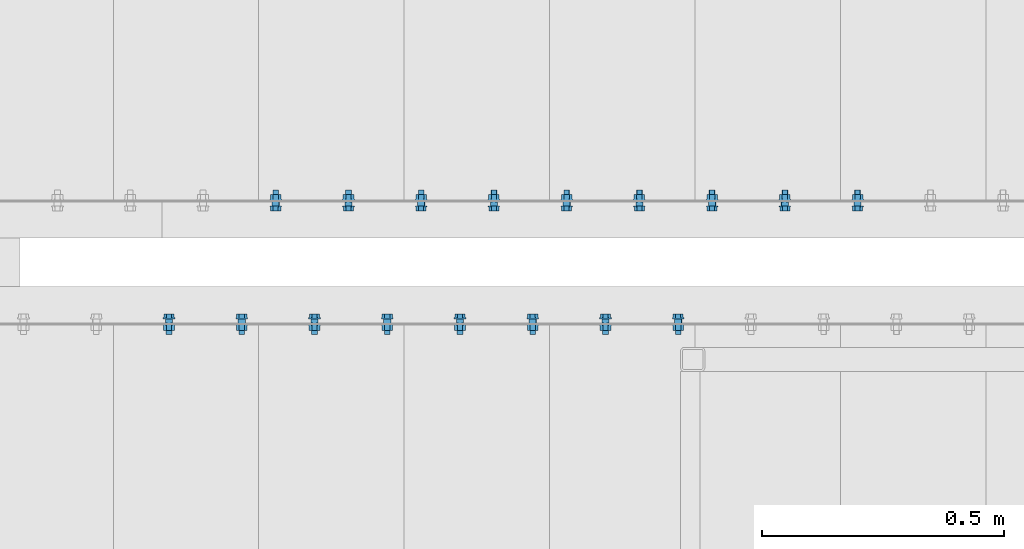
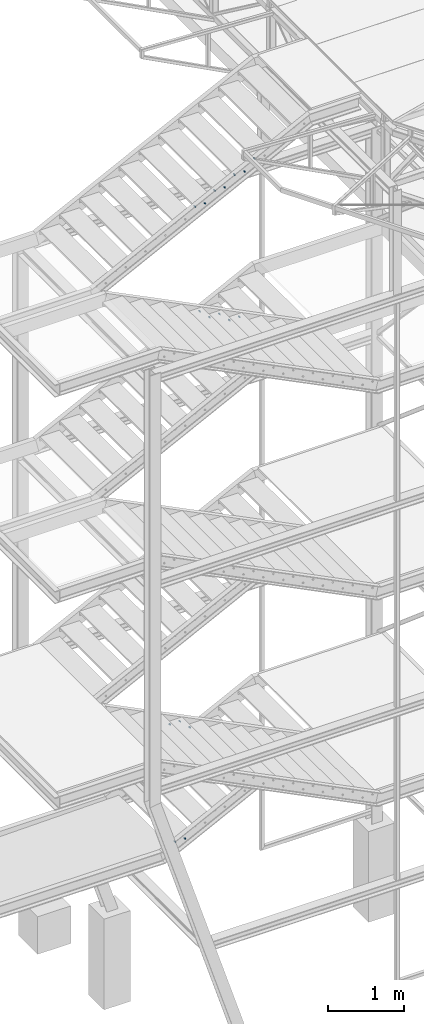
# One storey, part 104 of 132: 17 mechanical fasteners, 10 elements without a shape of their own.
"""IFC2X3 building model written with IfcOpenShell, lengths in millimetres."""

from ifc_helpers import new_model, si_unit, frame, frame_2d, origin_with_axes, origin_2d_with_axis, place, context, subcontext, project, spatial, polyline, circle_curve, parameter, trimmed, segment, composite_curve, circle, outline, extrude, source, transform, mapped, material, type_object, element, aggregate, save


model = new_model("IFC2X3")

# Units and contexts
model_context = context("Model", 3, precision=1e-05, world=origin_with_axes())
body_context = subcontext(model_context, "Body", "Model", "MODEL_VIEW")
ifc_project = project(units=[si_unit("LENGTHUNIT", "METRE", prefix="MILLI"), si_unit("AREAUNIT", "SQUARE_METRE"), si_unit("VOLUMEUNIT", "CUBIC_METRE"), si_unit("MASSUNIT", "GRAM", prefix="KILO"), si_unit("TIMEUNIT", "SECOND"), si_unit("PLANEANGLEUNIT", "RADIAN"), si_unit("SOLIDANGLEUNIT", "STERADIAN"), si_unit("THERMODYNAMICTEMPERATUREUNIT", "DEGREE_CELSIUS"), si_unit("LUMINOUSINTENSITYUNIT", "LUMEN")], contexts=[model_context])

# Site, building, storey
site_placement = place(None, origin_with_axes())
site = spatial("IfcSite", under=ifc_project, at=site_placement, Name="Budowa", CompositionType="ELEMENT")
building_placement = place(site_placement, origin_with_axes())
building = spatial("IfcBuilding", under=site, at=building_placement, Name="Undefined", CompositionType="ELEMENT")
storey_placement = place(building_placement, origin_with_axes())
storey = spatial("IfcBuildingStorey", under=building, at=storey_placement, Name="Undefined", CompositionType="ELEMENT", Elevation=0.0)

# Assembly, mechanical fastener
assembly_1_placement = place(storey_placement, origin_with_axes())
assembly_1 = element("IfcElementAssembly", 1, at=assembly_1_placement, inside=storey, Name="Steel Assembly", AssemblyPlace="NOTDEFINED", PredefinedType="RIGID_FRAME")
ifc_material = material(Name="Undefined")
discrete_accessory_type = type_object("IfcDiscreteAccessoryType", Name="Bolt assembly")
shared_shape_1 = source(origin_with_axes(), body_context, "Body", "SweptSolid", [
    extrude(circle(Radius=7.5, at=origin_2d_with_axis()), frame((0.0, -8.40000000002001, 0.0), z_axis=(0.0, 1.0, 0.0), x_axis=(1.0, 0.0, 0.0)), (0.0, 0.0, 1.0), 8.5),
    extrude(circle(Radius=7.5, at=origin_2d_with_axis()), frame((0.0, -0.1, 0.0), z_axis=(0.0, 1.0, 0.0), x_axis=(1.0, 0.0, 0.0)), (0.0, 0.0, 1.0), 3.1),
    extrude(outline(polyline([(10.39230484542, 0.0), (5.19615242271, 9.00000000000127), (-5.19615242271, 9.00000000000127), (-10.39230484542, 0.0), (-5.19615242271, -9.00000000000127), (5.19615242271, -9.00000000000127), (10.39230484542, 0.0)])), frame((0.0, -18.50000000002, 0.0), z_axis=(0.0, 1.0, 0.0), x_axis=(1.0, 0.0, 0.0)), (0.0, 0.0, 1.0), 7.5),
    extrude(circle(Radius=6.0, at=origin_2d_with_axis()), frame((0.0, -11.00000000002, 0.0), z_axis=(0.0, 1.0, 0.0), x_axis=(1.0, 0.0, 0.0)), (0.0, 0.0, 1.0), 35.0),
    extrude(circle(Radius=12.0, at=origin_2d_with_axis()), frame((0.0, -11.00000000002, 0.0), z_axis=(0.0, 1.0, 0.0), x_axis=(1.0, 0.0, 0.0)), (0.0, 0.0, 1.0), 2.5),
    extrude(circle(Radius=12.0, at=origin_2d_with_axis()), frame((0.0, 3.0, 0.0), z_axis=(0.0, 1.0, 0.0), x_axis=(1.0, 0.0, 0.0)), (0.0, 0.0, 1.0), 2.5),
    extrude(outline(polyline([(10.96965511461, 0.0), (5.484827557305, 9.50000000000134), (-5.484827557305, 9.50000000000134), (-10.96965511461, 0.0), (-5.484827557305, -9.50000000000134), (5.484827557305, -9.50000000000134), (10.96965511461, 0.0)])), frame((0.0, 5.5, 0.0), z_axis=(0.0, 1.0, 0.0), x_axis=(1.0, 0.0, 0.0)), (0.0, 0.0, 1.0), 10.0),
])
mechanical_fastener_1_placement = place(assembly_1_placement, frame((-1420.0000000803, 9525.0000000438, 13549.9999999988), z_axis=(0.0, 0.0, -1.0), x_axis=(-1.0, 0.0, 0.0)))
mechanical_fastener_1 = element("IfcMechanicalFastener", 2, at=mechanical_fastener_1_placement, type_object=discrete_accessory_type, material=ifc_material, Name="Bolt assembly", NominalDiameter=12.0, NominalLength=35.0, context=body_context, shape_type="MappedRepresentation", body=[
    mapped(shared_shape_1, transform((265.0, 0.0, 25.0))),
])
aggregate(assembly_1, [mechanical_fastener_1])

assembly_2_placement = place(storey_placement, origin_with_axes())
assembly_2 = element("IfcElementAssembly", 3, at=assembly_2_placement, inside=storey, Name="Steel Assembly", AssemblyPlace="NOTDEFINED", PredefinedType="RIGID_FRAME")
mechanical_fastener_2_placement = place(assembly_2_placement, frame((-1720.00000008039, 9525.0000000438, 13399.9999999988), z_axis=(0.0, 0.0, -1.0), x_axis=(-1.0, 0.0, 0.0)))
mechanical_fastener_2 = element("IfcMechanicalFastener", 4, at=mechanical_fastener_2_placement, type_object=discrete_accessory_type, material=ifc_material, Name="Bolt assembly", NominalDiameter=12.0, NominalLength=35.0, context=body_context, shape_type="MappedRepresentation", body=[
    mapped(shared_shape_1, transform((265.0, 0.0, 25.0))),
])

assembly_3_placement = place(storey_placement, origin_with_axes())
assembly_3 = element("IfcElementAssembly", 5, at=assembly_3_placement, inside=storey, Name="Steel Assembly", AssemblyPlace="NOTDEFINED", PredefinedType="RIGID_FRAME")
mechanical_fastener_3_placement = place(assembly_3_placement, frame((-2020.00000008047, 9525.0000000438, 13249.9999999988), z_axis=(0.0, 0.0, -1.0), x_axis=(-1.0, 0.0, 0.0)))
mechanical_fastener_3 = element("IfcMechanicalFastener", 6, at=mechanical_fastener_3_placement, type_object=discrete_accessory_type, material=ifc_material, Name="Bolt assembly", NominalDiameter=12.0, NominalLength=35.0, context=body_context, shape_type="MappedRepresentation", body=[
    mapped(shared_shape_1, transform((265.0, 0.0, 25.0))),
])

assembly_4_placement = place(storey_placement, origin_with_axes())
assembly_4 = element("IfcElementAssembly", 7, at=assembly_4_placement, inside=storey, Name="Steel Assembly", AssemblyPlace="NOTDEFINED", PredefinedType="RIGID_FRAME")
mechanical_fastener_4_placement = place(assembly_4_placement, frame((-2320.00000008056, 9525.0000000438, 13099.9999999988), z_axis=(0.0, 0.0, -1.0), x_axis=(-1.0, 0.0, 0.0)))
mechanical_fastener_4 = element("IfcMechanicalFastener", 8, at=mechanical_fastener_4_placement, type_object=discrete_accessory_type, material=ifc_material, Name="Bolt assembly", NominalDiameter=12.0, NominalLength=35.0, context=body_context, shape_type="MappedRepresentation", body=[
    mapped(shared_shape_1, transform((265.0, 0.0, 25.0))),
])

assembly_5_placement = place(storey_placement, origin_with_axes())
assembly_5 = element("IfcElementAssembly", 9, at=assembly_5_placement, inside=storey, Name="Steel Assembly", AssemblyPlace="NOTDEFINED", PredefinedType="RIGID_FRAME")
mechanical_fastener_5_placement = place(assembly_5_placement, frame((-2920.00000007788, 9275.00000004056, 11600.0000000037), z_axis=(0.0, 0.0, -1.0), x_axis=(1.0, 0.0, 0.0)))
mechanical_fastener_5 = element("IfcMechanicalFastener", 10, at=mechanical_fastener_5_placement, type_object=discrete_accessory_type, material=ifc_material, Name="Bolt assembly", NominalDiameter=12.0, NominalLength=35.0, context=body_context, shape_type="MappedRepresentation", body=[
    mapped(shared_shape_1, transform((265.0, 0.0, 25.0))),
])
aggregate(assembly_5, [mechanical_fastener_5])

assembly_6_placement = place(storey_placement, origin_with_axes())
assembly_6 = element("IfcElementAssembly", 11, at=assembly_6_placement, inside=storey, Name="Steel Assembly", AssemblyPlace="NOTDEFINED", PredefinedType="RIGID_FRAME")
mechanical_fastener_6_placement = place(assembly_6_placement, frame((-2620.00000007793, 9275.00000004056, 11450.0000000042), z_axis=(0.0, 0.0, -1.0), x_axis=(1.0, 0.0, 0.0)))
mechanical_fastener_6 = element("IfcMechanicalFastener", 12, at=mechanical_fastener_6_placement, type_object=discrete_accessory_type, material=ifc_material, Name="Bolt assembly", NominalDiameter=12.0, NominalLength=35.0, context=body_context, shape_type="MappedRepresentation", body=[
    mapped(shared_shape_1, transform((265.0, 0.0, 25.0))),
])

assembly_7_placement = place(storey_placement, origin_with_axes())
assembly_7 = element("IfcElementAssembly", 13, at=assembly_7_placement, inside=storey, Name="Steel Assembly", AssemblyPlace="NOTDEFINED", PredefinedType="RIGID_FRAME")
mechanical_fastener_7_placement = place(assembly_7_placement, frame((-2320.00000007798, 9275.00000004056, 11300.000000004), z_axis=(0.0, 0.0, -1.0), x_axis=(1.0, 0.0, 0.0)))
mechanical_fastener_7 = element("IfcMechanicalFastener", 14, at=mechanical_fastener_7_placement, type_object=discrete_accessory_type, material=ifc_material, Name="Bolt assembly", NominalDiameter=12.0, NominalLength=35.0, context=body_context, shape_type="MappedRepresentation", body=[
    mapped(shared_shape_1, transform((265.0, 0.0, 25.0))),
])

assembly_8_placement = place(storey_placement, origin_with_axes())
assembly_8 = element("IfcElementAssembly", 15, at=assembly_8_placement, inside=storey, Name="Steel Assembly", AssemblyPlace="NOTDEFINED", PredefinedType="RIGID_FRAME")
mechanical_fastener_8_placement = place(assembly_8_placement, frame((-3220.00000007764, 9275.00000004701, 5149.99999999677), z_axis=(0.0, 0.0, -1.0), x_axis=(1.0, 0.0, 0.0)))
mechanical_fastener_8 = element("IfcMechanicalFastener", 16, at=mechanical_fastener_8_placement, type_object=discrete_accessory_type, material=ifc_material, Name="Bolt assembly", NominalDiameter=12.0, NominalLength=35.0, context=body_context, shape_type="MappedRepresentation", body=[
    mapped(shared_shape_1, transform((265.0, 0.0, 25.0))),
])

assembly_9_placement = place(storey_placement, origin_with_axes())
assembly_9 = element("IfcElementAssembly", 17, at=assembly_9_placement, inside=storey, Name="Steel Assembly", AssemblyPlace="NOTDEFINED", PredefinedType="RIGID_FRAME")
mechanical_fastener_9_placement = place(assembly_9_placement, frame((-2620.00000008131, 9525.00000004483, 3049.99999999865), z_axis=(0.0, 0.0, -1.0), x_axis=(-1.0, 0.0, 0.0)))
mechanical_fastener_9 = element("IfcMechanicalFastener", 18, at=mechanical_fastener_9_placement, type_object=discrete_accessory_type, material=ifc_material, Name="Bolt assembly", NominalDiameter=12.0, NominalLength=35.0, context=body_context, shape_type="MappedRepresentation", body=[
    mapped(shared_shape_1, transform((265.0, 0.0, 25.0))),
])

# Mechanical fastener
shared_shape_2 = source(origin_with_axes(), body_context, "Body", "SweptSolid", [
    extrude(circle(Radius=7.5, at=origin_2d_with_axis()), frame((0.0, -8.40000000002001, 0.0), z_axis=(0.0, 1.0, 0.0), x_axis=(1.0, 0.0, 0.0)), (0.0, 0.0, 1.0), 8.5),
    extrude(outline(composite_curve([segment(polyline([(-10.0, 7.5), (10.0, 7.5)]), True, "CONTINUOUS"), segment(trimmed(circle_curve(frame_2d((10.0, 0.0), x_axis=(0.0, 1.0)), 7.5), [parameter(0.0)], [parameter(3.14159265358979)], False, "PARAMETER"), True, "CONTINUOUS"), segment(polyline([(10.0, -7.5), (-10.0, -7.5)]), True, "CONTINUOUS"), segment(trimmed(circle_curve(frame_2d((-10.0, 0.0), x_axis=(0.0, -1.0)), 7.5), [parameter(0.0)], [parameter(3.14159265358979)], False, "PARAMETER"), True, "DISCONTINUOUS")], self_intersect=False)), frame((0.0, -0.1, 0.0), z_axis=(0.0, 1.0, 0.0), x_axis=(1.0, 0.0, 0.0)), (0.0, 0.0, 1.0), 3.1),
    extrude(outline(polyline([(10.39230484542, 0.0), (5.19615242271, 9.00000000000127), (-5.19615242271, 9.00000000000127), (-10.39230484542, 0.0), (-5.19615242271, -9.00000000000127), (5.19615242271, -9.00000000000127), (10.39230484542, 0.0)])), frame((0.0, -18.50000000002, 0.0), z_axis=(0.0, 1.0, 0.0), x_axis=(1.0, 0.0, 0.0)), (0.0, 0.0, 1.0), 7.5),
    extrude(circle(Radius=6.0, at=origin_2d_with_axis()), frame((0.0, -11.00000000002, 0.0), z_axis=(0.0, 1.0, 0.0), x_axis=(1.0, 0.0, 0.0)), (0.0, 0.0, 1.0), 35.0),
    extrude(circle(Radius=12.0, at=origin_2d_with_axis()), frame((0.0, -11.00000000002, 0.0), z_axis=(0.0, 1.0, 0.0), x_axis=(1.0, 0.0, 0.0)), (0.0, 0.0, 1.0), 2.5),
    extrude(circle(Radius=12.0, at=origin_2d_with_axis()), frame((0.0, 3.0, 0.0), z_axis=(0.0, 1.0, 0.0), x_axis=(1.0, 0.0, 0.0)), (0.0, 0.0, 1.0), 2.5),
    extrude(outline(polyline([(10.96965511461, 0.0), (5.484827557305, 9.50000000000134), (-5.484827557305, 9.50000000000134), (-10.96965511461, 0.0), (-5.484827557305, -9.50000000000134), (5.484827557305, -9.50000000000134), (10.96965511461, 0.0)])), frame((0.0, 5.5, 0.0), z_axis=(0.0, 1.0, 0.0), x_axis=(1.0, 0.0, 0.0)), (0.0, 0.0, 1.0), 10.0),
])
mechanical_fastener_10_placement = place(assembly_2_placement, frame((-1720.00000008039, 9525.0000000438, 13399.9999999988), z_axis=(0.0, 0.0, -1.0), x_axis=(-1.0, 0.0, 0.0)))
mechanical_fastener_10 = element("IfcMechanicalFastener", 19, at=mechanical_fastener_10_placement, type_object=discrete_accessory_type, material=ifc_material, Name="Bolt assembly", NominalDiameter=12.0, NominalLength=35.0, context=body_context, shape_type="MappedRepresentation", body=[
    mapped(shared_shape_2, transform((115.0, 0.0, 25.0))),
])

aggregate(assembly_2, [mechanical_fastener_10, mechanical_fastener_2])

shared_shape_3 = source(origin_with_axes(), body_context, "Body", "SweptSolid", [
    extrude(circle(Radius=7.5, at=origin_2d_with_axis()), frame((0.0, -8.40000000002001, 0.0), z_axis=(0.0, 1.0, 0.0), x_axis=(1.0, 0.0, 0.0)), (0.0, 0.0, 1.0), 8.5),
    extrude(outline(composite_curve([segment(polyline([(-10.0, 7.5), (10.0, 7.5)]), True, "CONTINUOUS"), segment(trimmed(circle_curve(frame_2d((10.0, 0.0), x_axis=(0.0, 1.0)), 7.5), [parameter(0.0)], [parameter(3.14159265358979)], False, "PARAMETER"), True, "CONTINUOUS"), segment(polyline([(10.0, -7.5), (-10.0, -7.5)]), True, "CONTINUOUS"), segment(trimmed(circle_curve(frame_2d((-10.0, 0.0), x_axis=(0.0, -1.0)), 7.5), [parameter(0.0)], [parameter(3.14159265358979)], False, "PARAMETER"), True, "DISCONTINUOUS")], self_intersect=False)), frame((0.0, -0.1, 0.0), z_axis=(0.0, 1.0, 0.0), x_axis=(1.0, 0.0, 0.0)), (0.0, 0.0, 1.0), 3.1),
    extrude(outline(polyline([(10.39230484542, 0.0), (5.19615242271, 9.00000000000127), (-5.19615242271, 9.00000000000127), (-10.39230484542, 0.0), (-5.19615242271, -9.00000000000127), (5.19615242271, -9.00000000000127), (10.39230484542, 0.0)])), frame((0.0, -18.50000000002, 0.0), z_axis=(0.0, 1.0, 0.0), x_axis=(1.0, 0.0, 0.0)), (0.0, 0.0, 1.0), 7.5),
    extrude(circle(Radius=6.0, at=origin_2d_with_axis()), frame((0.0, -11.00000000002, 0.0), z_axis=(0.0, 1.0, 0.0), x_axis=(1.0, 0.0, 0.0)), (0.0, 0.0, 1.0), 35.0),
    extrude(circle(Radius=12.0, at=origin_2d_with_axis()), frame((0.0, -11.00000000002, 0.0), z_axis=(0.0, 1.0, 0.0), x_axis=(1.0, 0.0, 0.0)), (0.0, 0.0, 1.0), 2.5),
    extrude(circle(Radius=12.0, at=origin_2d_with_axis()), frame((0.0, 3.0, 0.0), z_axis=(0.0, 1.0, 0.0), x_axis=(1.0, 0.0, 0.0)), (0.0, 0.0, 1.0), 2.5),
    extrude(outline(polyline([(10.96965511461, 0.0), (5.484827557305, 9.50000000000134), (-5.484827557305, 9.50000000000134), (-10.96965511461, 0.0), (-5.484827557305, -9.50000000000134), (5.484827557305, -9.50000000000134), (10.96965511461, 0.0)])), frame((0.0, 5.5, 0.0), z_axis=(0.0, 1.0, 0.0), x_axis=(1.0, 0.0, 0.0)), (0.0, 0.0, 1.0), 10.0),
])
mechanical_fastener_11_placement = place(assembly_3_placement, frame((-2020.00000008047, 9525.0000000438, 13249.9999999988), z_axis=(0.0, 0.0, -1.0), x_axis=(-1.0, 0.0, 0.0)))
mechanical_fastener_11 = element("IfcMechanicalFastener", 20, at=mechanical_fastener_11_placement, type_object=discrete_accessory_type, material=ifc_material, Name="Bolt assembly", NominalDiameter=12.0, NominalLength=35.0, context=body_context, shape_type="MappedRepresentation", body=[
    mapped(shared_shape_3, transform((115.0, 0.0, 25.0))),
])

aggregate(assembly_3, [mechanical_fastener_11, mechanical_fastener_3])

shared_shape_4 = source(origin_with_axes(), body_context, "Body", "SweptSolid", [
    extrude(circle(Radius=7.5, at=origin_2d_with_axis()), frame((0.0, -8.40000000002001, 0.0), z_axis=(0.0, 1.0, 0.0), x_axis=(1.0, 0.0, 0.0)), (0.0, 0.0, 1.0), 8.5),
    extrude(outline(composite_curve([segment(polyline([(-10.0, 7.5), (10.0, 7.5)]), True, "CONTINUOUS"), segment(trimmed(circle_curve(frame_2d((10.0, 0.0), x_axis=(0.0, 1.0)), 7.5), [parameter(0.0)], [parameter(3.14159265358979)], False, "PARAMETER"), True, "CONTINUOUS"), segment(polyline([(10.0, -7.5), (-10.0, -7.5)]), True, "CONTINUOUS"), segment(trimmed(circle_curve(frame_2d((-10.0, 0.0), x_axis=(0.0, -1.0)), 7.5), [parameter(0.0)], [parameter(3.14159265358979)], False, "PARAMETER"), True, "DISCONTINUOUS")], self_intersect=False)), frame((0.0, -0.1, 0.0), z_axis=(0.0, 1.0, 0.0), x_axis=(1.0, 0.0, 0.0)), (0.0, 0.0, 1.0), 3.1),
    extrude(outline(polyline([(10.39230484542, 0.0), (5.19615242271, 9.00000000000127), (-5.19615242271, 9.00000000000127), (-10.39230484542, 0.0), (-5.19615242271, -9.00000000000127), (5.19615242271, -9.00000000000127), (10.39230484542, 0.0)])), frame((0.0, -18.50000000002, 0.0), z_axis=(0.0, 1.0, 0.0), x_axis=(1.0, 0.0, 0.0)), (0.0, 0.0, 1.0), 7.5),
    extrude(circle(Radius=6.0, at=origin_2d_with_axis()), frame((0.0, -11.00000000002, 0.0), z_axis=(0.0, 1.0, 0.0), x_axis=(1.0, 0.0, 0.0)), (0.0, 0.0, 1.0), 35.0),
    extrude(circle(Radius=12.0, at=origin_2d_with_axis()), frame((0.0, -11.00000000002, 0.0), z_axis=(0.0, 1.0, 0.0), x_axis=(1.0, 0.0, 0.0)), (0.0, 0.0, 1.0), 2.5),
    extrude(circle(Radius=12.0, at=origin_2d_with_axis()), frame((0.0, 3.0, 0.0), z_axis=(0.0, 1.0, 0.0), x_axis=(1.0, 0.0, 0.0)), (0.0, 0.0, 1.0), 2.5),
    extrude(outline(polyline([(10.96965511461, 0.0), (5.484827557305, 9.50000000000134), (-5.484827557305, 9.50000000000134), (-10.96965511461, 0.0), (-5.484827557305, -9.50000000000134), (5.484827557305, -9.50000000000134), (10.96965511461, 0.0)])), frame((0.0, 5.5, 0.0), z_axis=(0.0, 1.0, 0.0), x_axis=(1.0, 0.0, 0.0)), (0.0, 0.0, 1.0), 10.0),
])
mechanical_fastener_12_placement = place(assembly_4_placement, frame((-2320.00000008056, 9525.0000000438, 13099.9999999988), z_axis=(0.0, 0.0, -1.0), x_axis=(-1.0, 0.0, 0.0)))
mechanical_fastener_12 = element("IfcMechanicalFastener", 21, at=mechanical_fastener_12_placement, type_object=discrete_accessory_type, material=ifc_material, Name="Bolt assembly", NominalDiameter=12.0, NominalLength=35.0, context=body_context, shape_type="MappedRepresentation", body=[
    mapped(shared_shape_4, transform((115.0, 0.0, 25.0))),
])

aggregate(assembly_4, [mechanical_fastener_12, mechanical_fastener_4])

shared_shape_5 = source(origin_with_axes(), body_context, "Body", "SweptSolid", [
    extrude(circle(Radius=7.5, at=origin_2d_with_axis()), frame((0.0, -8.40000000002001, 0.0), z_axis=(0.0, 1.0, 0.0), x_axis=(1.0, 0.0, 0.0)), (0.0, 0.0, 1.0), 8.5),
    extrude(outline(composite_curve([segment(polyline([(-10.0, 7.5), (10.0, 7.5)]), True, "CONTINUOUS"), segment(trimmed(circle_curve(frame_2d((10.0, 0.0), x_axis=(0.0, 1.0)), 7.5), [parameter(0.0)], [parameter(3.14159265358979)], False, "PARAMETER"), True, "CONTINUOUS"), segment(polyline([(10.0, -7.5), (-10.0, -7.5)]), True, "CONTINUOUS"), segment(trimmed(circle_curve(frame_2d((-10.0, 0.0), x_axis=(0.0, -1.0)), 7.5), [parameter(0.0)], [parameter(3.14159265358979)], False, "PARAMETER"), True, "DISCONTINUOUS")], self_intersect=False)), frame((0.0, -0.1, 0.0), z_axis=(0.0, 1.0, 0.0), x_axis=(1.0, 0.0, 0.0)), (0.0, 0.0, 1.0), 3.1),
    extrude(outline(polyline([(10.39230484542, 0.0), (5.19615242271, 9.00000000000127), (-5.19615242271, 9.00000000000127), (-10.39230484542, 0.0), (-5.19615242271, -9.00000000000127), (5.19615242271, -9.00000000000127), (10.39230484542, 0.0)])), frame((0.0, -18.50000000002, 0.0), z_axis=(0.0, 1.0, 0.0), x_axis=(1.0, 0.0, 0.0)), (0.0, 0.0, 1.0), 7.5),
    extrude(circle(Radius=6.0, at=origin_2d_with_axis()), frame((0.0, -11.00000000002, 0.0), z_axis=(0.0, 1.0, 0.0), x_axis=(1.0, 0.0, 0.0)), (0.0, 0.0, 1.0), 35.0),
    extrude(circle(Radius=12.0, at=origin_2d_with_axis()), frame((0.0, -11.00000000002, 0.0), z_axis=(0.0, 1.0, 0.0), x_axis=(1.0, 0.0, 0.0)), (0.0, 0.0, 1.0), 2.5),
    extrude(circle(Radius=12.0, at=origin_2d_with_axis()), frame((0.0, 3.0, 0.0), z_axis=(0.0, 1.0, 0.0), x_axis=(1.0, 0.0, 0.0)), (0.0, 0.0, 1.0), 2.5),
    extrude(outline(polyline([(10.96965511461, 0.0), (5.484827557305, 9.50000000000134), (-5.484827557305, 9.50000000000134), (-10.96965511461, 0.0), (-5.484827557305, -9.50000000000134), (5.484827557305, -9.50000000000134), (10.96965511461, 0.0)])), frame((0.0, 5.5, 0.0), z_axis=(0.0, 1.0, 0.0), x_axis=(1.0, 0.0, 0.0)), (0.0, 0.0, 1.0), 10.0),
])
mechanical_fastener_13_placement = place(assembly_6_placement, frame((-2620.00000007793, 9275.00000004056, 11450.0000000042), z_axis=(0.0, 0.0, -1.0), x_axis=(1.0, 0.0, 0.0)))
mechanical_fastener_13 = element("IfcMechanicalFastener", 22, at=mechanical_fastener_13_placement, type_object=discrete_accessory_type, material=ifc_material, Name="Bolt assembly", NominalDiameter=12.0, NominalLength=35.0, context=body_context, shape_type="MappedRepresentation", body=[
    mapped(shared_shape_5, transform((115.0, 0.0, 25.0))),
])

aggregate(assembly_6, [mechanical_fastener_13, mechanical_fastener_6])

shared_shape_6 = source(origin_with_axes(), body_context, "Body", "SweptSolid", [
    extrude(circle(Radius=7.5, at=origin_2d_with_axis()), frame((0.0, -8.40000000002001, 0.0), z_axis=(0.0, 1.0, 0.0), x_axis=(1.0, 0.0, 0.0)), (0.0, 0.0, 1.0), 8.5),
    extrude(outline(composite_curve([segment(polyline([(-10.0, 7.5), (10.0, 7.5)]), True, "CONTINUOUS"), segment(trimmed(circle_curve(frame_2d((10.0, 0.0), x_axis=(0.0, 1.0)), 7.5), [parameter(0.0)], [parameter(3.14159265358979)], False, "PARAMETER"), True, "CONTINUOUS"), segment(polyline([(10.0, -7.5), (-10.0, -7.5)]), True, "CONTINUOUS"), segment(trimmed(circle_curve(frame_2d((-10.0, 0.0), x_axis=(0.0, -1.0)), 7.5), [parameter(0.0)], [parameter(3.14159265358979)], False, "PARAMETER"), True, "DISCONTINUOUS")], self_intersect=False)), frame((0.0, -0.1, 0.0), z_axis=(0.0, 1.0, 0.0), x_axis=(1.0, 0.0, 0.0)), (0.0, 0.0, 1.0), 3.1),
    extrude(outline(polyline([(10.39230484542, 0.0), (5.19615242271, 9.00000000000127), (-5.19615242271, 9.00000000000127), (-10.39230484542, 0.0), (-5.19615242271, -9.00000000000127), (5.19615242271, -9.00000000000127), (10.39230484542, 0.0)])), frame((0.0, -18.50000000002, 0.0), z_axis=(0.0, 1.0, 0.0), x_axis=(1.0, 0.0, 0.0)), (0.0, 0.0, 1.0), 7.5),
    extrude(circle(Radius=6.0, at=origin_2d_with_axis()), frame((0.0, -11.00000000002, 0.0), z_axis=(0.0, 1.0, 0.0), x_axis=(1.0, 0.0, 0.0)), (0.0, 0.0, 1.0), 35.0),
    extrude(circle(Radius=12.0, at=origin_2d_with_axis()), frame((0.0, -11.00000000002, 0.0), z_axis=(0.0, 1.0, 0.0), x_axis=(1.0, 0.0, 0.0)), (0.0, 0.0, 1.0), 2.5),
    extrude(circle(Radius=12.0, at=origin_2d_with_axis()), frame((0.0, 3.0, 0.0), z_axis=(0.0, 1.0, 0.0), x_axis=(1.0, 0.0, 0.0)), (0.0, 0.0, 1.0), 2.5),
    extrude(outline(polyline([(10.96965511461, 0.0), (5.484827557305, 9.50000000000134), (-5.484827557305, 9.50000000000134), (-10.96965511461, 0.0), (-5.484827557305, -9.50000000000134), (5.484827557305, -9.50000000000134), (10.96965511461, 0.0)])), frame((0.0, 5.5, 0.0), z_axis=(0.0, 1.0, 0.0), x_axis=(1.0, 0.0, 0.0)), (0.0, 0.0, 1.0), 10.0),
])
mechanical_fastener_14_placement = place(assembly_7_placement, frame((-2320.00000007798, 9275.00000004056, 11300.000000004), z_axis=(0.0, 0.0, -1.0), x_axis=(1.0, 0.0, 0.0)))
mechanical_fastener_14 = element("IfcMechanicalFastener", 23, at=mechanical_fastener_14_placement, type_object=discrete_accessory_type, material=ifc_material, Name="Bolt assembly", NominalDiameter=12.0, NominalLength=35.0, context=body_context, shape_type="MappedRepresentation", body=[
    mapped(shared_shape_6, transform((115.0, 0.0, 25.0))),
])

aggregate(assembly_7, [mechanical_fastener_14, mechanical_fastener_7])

shared_shape_7 = source(origin_with_axes(), body_context, "Body", "SweptSolid", [
    extrude(circle(Radius=7.5, at=origin_2d_with_axis()), frame((0.0, -8.40000000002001, 0.0), z_axis=(0.0, 1.0, 0.0), x_axis=(1.0, 0.0, 0.0)), (0.0, 0.0, 1.0), 8.5),
    extrude(outline(composite_curve([segment(polyline([(-10.0, 7.5), (10.0, 7.5)]), True, "CONTINUOUS"), segment(trimmed(circle_curve(frame_2d((10.0, 0.0), x_axis=(0.0, 1.0)), 7.5), [parameter(0.0)], [parameter(3.14159265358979)], False, "PARAMETER"), True, "CONTINUOUS"), segment(polyline([(10.0, -7.5), (-10.0, -7.5)]), True, "CONTINUOUS"), segment(trimmed(circle_curve(frame_2d((-10.0, 0.0), x_axis=(0.0, -1.0)), 7.5), [parameter(0.0)], [parameter(3.14159265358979)], False, "PARAMETER"), True, "DISCONTINUOUS")], self_intersect=False)), frame((0.0, -0.1, 0.0), z_axis=(0.0, 1.0, 0.0), x_axis=(1.0, 0.0, 0.0)), (0.0, 0.0, 1.0), 3.1),
    extrude(outline(polyline([(10.39230484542, 0.0), (5.19615242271, 9.00000000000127), (-5.19615242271, 9.00000000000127), (-10.39230484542, 0.0), (-5.19615242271, -9.00000000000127), (5.19615242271, -9.00000000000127), (10.39230484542, 0.0)])), frame((0.0, -18.50000000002, 0.0), z_axis=(0.0, 1.0, 0.0), x_axis=(1.0, 0.0, 0.0)), (0.0, 0.0, 1.0), 7.5),
    extrude(circle(Radius=6.0, at=origin_2d_with_axis()), frame((0.0, -11.00000000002, 0.0), z_axis=(0.0, 1.0, 0.0), x_axis=(1.0, 0.0, 0.0)), (0.0, 0.0, 1.0), 35.0),
    extrude(circle(Radius=12.0, at=origin_2d_with_axis()), frame((0.0, -11.00000000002, 0.0), z_axis=(0.0, 1.0, 0.0), x_axis=(1.0, 0.0, 0.0)), (0.0, 0.0, 1.0), 2.5),
    extrude(circle(Radius=12.0, at=origin_2d_with_axis()), frame((0.0, 3.0, 0.0), z_axis=(0.0, 1.0, 0.0), x_axis=(1.0, 0.0, 0.0)), (0.0, 0.0, 1.0), 2.5),
    extrude(outline(polyline([(10.96965511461, 0.0), (5.484827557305, 9.50000000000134), (-5.484827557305, 9.50000000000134), (-10.96965511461, 0.0), (-5.484827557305, -9.50000000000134), (5.484827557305, -9.50000000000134), (10.96965511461, 0.0)])), frame((0.0, 5.5, 0.0), z_axis=(0.0, 1.0, 0.0), x_axis=(1.0, 0.0, 0.0)), (0.0, 0.0, 1.0), 10.0),
])
mechanical_fastener_15_placement = place(assembly_8_placement, frame((-3220.00000007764, 9275.00000004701, 5149.99999999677), z_axis=(0.0, 0.0, -1.0), x_axis=(1.0, 0.0, 0.0)))
mechanical_fastener_15 = element("IfcMechanicalFastener", 24, at=mechanical_fastener_15_placement, type_object=discrete_accessory_type, material=ifc_material, Name="Bolt assembly", NominalDiameter=12.0, NominalLength=35.0, context=body_context, shape_type="MappedRepresentation", body=[
    mapped(shared_shape_7, transform((115.0, 0.0, 25.0))),
])

aggregate(assembly_8, [mechanical_fastener_15, mechanical_fastener_8])

# Assembly, mechanical fastener
assembly_10_placement = place(storey_placement, origin_with_axes())
assembly_10 = element("IfcElementAssembly", 25, at=assembly_10_placement, inside=storey, Name="Steel Assembly", AssemblyPlace="NOTDEFINED", PredefinedType="RIGID_FRAME")
shared_shape_8 = source(origin_with_axes(), body_context, "Body", "SweptSolid", [
    extrude(circle(Radius=7.5, at=origin_2d_with_axis()), frame((0.0, -8.40000000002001, 0.0), z_axis=(0.0, 1.0, 0.0), x_axis=(1.0, 0.0, 0.0)), (0.0, 0.0, 1.0), 8.5),
    extrude(outline(composite_curve([segment(polyline([(-10.0, 7.5), (10.0, 7.5)]), True, "CONTINUOUS"), segment(trimmed(circle_curve(frame_2d((10.0, 0.0), x_axis=(0.0, 1.0)), 7.5), [parameter(0.0)], [parameter(3.14159265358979)], False, "PARAMETER"), True, "CONTINUOUS"), segment(polyline([(10.0, -7.5), (-10.0, -7.5)]), True, "CONTINUOUS"), segment(trimmed(circle_curve(frame_2d((-10.0, 0.0), x_axis=(0.0, -1.0)), 7.5), [parameter(0.0)], [parameter(3.14159265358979)], False, "PARAMETER"), True, "DISCONTINUOUS")], self_intersect=False)), frame((0.0, -0.1, 0.0), z_axis=(0.0, 1.0, 0.0), x_axis=(1.0, 0.0, 0.0)), (0.0, 0.0, 1.0), 3.1),
    extrude(outline(polyline([(10.39230484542, 0.0), (5.19615242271, 9.00000000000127), (-5.19615242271, 9.00000000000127), (-10.39230484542, 0.0), (-5.19615242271, -9.00000000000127), (5.19615242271, -9.00000000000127), (10.39230484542, 0.0)])), frame((0.0, -18.50000000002, 0.0), z_axis=(0.0, 1.0, 0.0), x_axis=(1.0, 0.0, 0.0)), (0.0, 0.0, 1.0), 7.5),
    extrude(circle(Radius=6.0, at=origin_2d_with_axis()), frame((0.0, -11.00000000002, 0.0), z_axis=(0.0, 1.0, 0.0), x_axis=(1.0, 0.0, 0.0)), (0.0, 0.0, 1.0), 35.0),
    extrude(circle(Radius=12.0, at=origin_2d_with_axis()), frame((0.0, -11.00000000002, 0.0), z_axis=(0.0, 1.0, 0.0), x_axis=(1.0, 0.0, 0.0)), (0.0, 0.0, 1.0), 2.5),
    extrude(circle(Radius=12.0, at=origin_2d_with_axis()), frame((0.0, 3.0, 0.0), z_axis=(0.0, 1.0, 0.0), x_axis=(1.0, 0.0, 0.0)), (0.0, 0.0, 1.0), 2.5),
    extrude(outline(polyline([(10.96965511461, 0.0), (5.484827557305, 9.50000000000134), (-5.484827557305, 9.50000000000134), (-10.96965511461, 0.0), (-5.484827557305, -9.50000000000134), (5.484827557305, -9.50000000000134), (10.96965511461, 0.0)])), frame((0.0, 5.5, 0.0), z_axis=(0.0, 1.0, 0.0), x_axis=(1.0, 0.0, 0.0)), (0.0, 0.0, 1.0), 10.0),
])
mechanical_fastener_16_placement = place(assembly_10_placement, frame((-2920.00000007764, 9275.00000004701, 4999.99999999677), z_axis=(0.0, 0.0, -1.0), x_axis=(1.0, 0.0, 0.0)))
mechanical_fastener_16 = element("IfcMechanicalFastener", 26, at=mechanical_fastener_16_placement, type_object=discrete_accessory_type, material=ifc_material, Name="Bolt assembly", NominalDiameter=12.0, NominalLength=35.0, context=body_context, shape_type="MappedRepresentation", body=[
    mapped(shared_shape_8, transform((115.0, 0.0, 25.0))),
])
aggregate(assembly_10, [mechanical_fastener_16])

# Mechanical fastener
shared_shape_9 = source(origin_with_axes(), body_context, "Body", "SweptSolid", [
    extrude(circle(Radius=7.5, at=origin_2d_with_axis()), frame((0.0, -8.40000000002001, 0.0), z_axis=(0.0, 1.0, 0.0), x_axis=(1.0, 0.0, 0.0)), (0.0, 0.0, 1.0), 8.5),
    extrude(outline(composite_curve([segment(polyline([(-10.0, 7.5), (10.0, 7.5)]), True, "CONTINUOUS"), segment(trimmed(circle_curve(frame_2d((10.0, 0.0), x_axis=(0.0, 1.0)), 7.5), [parameter(0.0)], [parameter(3.14159265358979)], False, "PARAMETER"), True, "CONTINUOUS"), segment(polyline([(10.0, -7.5), (-10.0, -7.5)]), True, "CONTINUOUS"), segment(trimmed(circle_curve(frame_2d((-10.0, 0.0), x_axis=(0.0, -1.0)), 7.5), [parameter(0.0)], [parameter(3.14159265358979)], False, "PARAMETER"), True, "DISCONTINUOUS")], self_intersect=False)), frame((0.0, -0.1, 0.0), z_axis=(0.0, 1.0, 0.0), x_axis=(1.0, 0.0, 0.0)), (0.0, 0.0, 1.0), 3.1),
    extrude(outline(polyline([(10.39230484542, 0.0), (5.19615242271, 9.00000000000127), (-5.19615242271, 9.00000000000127), (-10.39230484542, 0.0), (-5.19615242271, -9.00000000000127), (5.19615242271, -9.00000000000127), (10.39230484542, 0.0)])), frame((0.0, -18.50000000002, 0.0), z_axis=(0.0, 1.0, 0.0), x_axis=(1.0, 0.0, 0.0)), (0.0, 0.0, 1.0), 7.5),
    extrude(circle(Radius=6.0, at=origin_2d_with_axis()), frame((0.0, -11.00000000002, 0.0), z_axis=(0.0, 1.0, 0.0), x_axis=(1.0, 0.0, 0.0)), (0.0, 0.0, 1.0), 35.0),
    extrude(circle(Radius=12.0, at=origin_2d_with_axis()), frame((0.0, -11.00000000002, 0.0), z_axis=(0.0, 1.0, 0.0), x_axis=(1.0, 0.0, 0.0)), (0.0, 0.0, 1.0), 2.5),
    extrude(circle(Radius=12.0, at=origin_2d_with_axis()), frame((0.0, 3.0, 0.0), z_axis=(0.0, 1.0, 0.0), x_axis=(1.0, 0.0, 0.0)), (0.0, 0.0, 1.0), 2.5),
    extrude(outline(polyline([(10.96965511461, 0.0), (5.484827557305, 9.50000000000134), (-5.484827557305, 9.50000000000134), (-10.96965511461, 0.0), (-5.484827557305, -9.50000000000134), (5.484827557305, -9.50000000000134), (10.96965511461, 0.0)])), frame((0.0, 5.5, 0.0), z_axis=(0.0, 1.0, 0.0), x_axis=(1.0, 0.0, 0.0)), (0.0, 0.0, 1.0), 10.0),
])
mechanical_fastener_17_placement = place(assembly_9_placement, frame((-2620.00000008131, 9525.00000004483, 3049.99999999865), z_axis=(0.0, 0.0, -1.0), x_axis=(-1.0, 0.0, 0.0)))
mechanical_fastener_17 = element("IfcMechanicalFastener", 27, at=mechanical_fastener_17_placement, type_object=discrete_accessory_type, material=ifc_material, Name="Bolt assembly", NominalDiameter=12.0, NominalLength=35.0, context=body_context, shape_type="MappedRepresentation", body=[
    mapped(shared_shape_9, transform((115.0, 0.0, 25.0))),
])

aggregate(assembly_9, [mechanical_fastener_17, mechanical_fastener_9])

save(model, "model.ifc")
